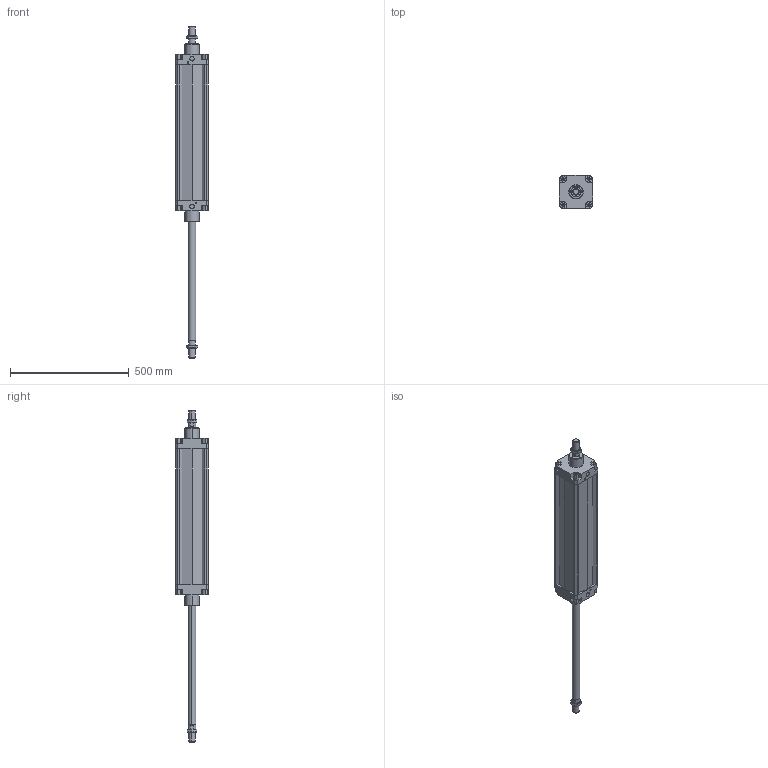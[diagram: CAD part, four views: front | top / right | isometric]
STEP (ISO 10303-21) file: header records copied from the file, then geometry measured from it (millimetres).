
FILE_DESCRIPTION((''),'2;1');
FILE_NAME('I:\DOC-EDP\Lib-3d\1319\CILINDRI\Ø125\1319_125_0500_02.stp','2003-04-08T12:26:46',('maffial1'),(''),'Autodesk Inventor (R) 6.0','Autodesk Inventor (R) 6.0','');
FILE_SCHEMA(('AUTOMOTIVE_DESIGN { 1 0 10303 214 1 1 1 1 }'));
Length unit declared in the file: millimetre
Products named in the file (4): 1319_125_0500_02; CIM04_125_500; CIM03_125_500; 1320_125_18F
Assembly tree (4 placements, depth 2):
  1319_125_0500_02
    CIM04_125_500
    CIM03_125_500
    1320_125_18F  x2
Bounding box: 140 x 140 x 1398 mm (x, y, z)
Volume: 11444944.8 mm3; surface area: 676054.7 mm2
Topology: 4 solids, 4 shells, 290 faces, 724 edges, 452 vertices
Faces by surface type: plane 130, bspline 72, cone 60, cylinder 28
Entity records: 8094 total; most frequent: CARTESIAN_POINT 1972, ORIENTED_EDGE 1288, DIRECTION 1160, EDGE_CURVE 644, VECTOR 480, LINE 480, VERTEX_POINT 416, AXIS2_PLACEMENT_3D 340
